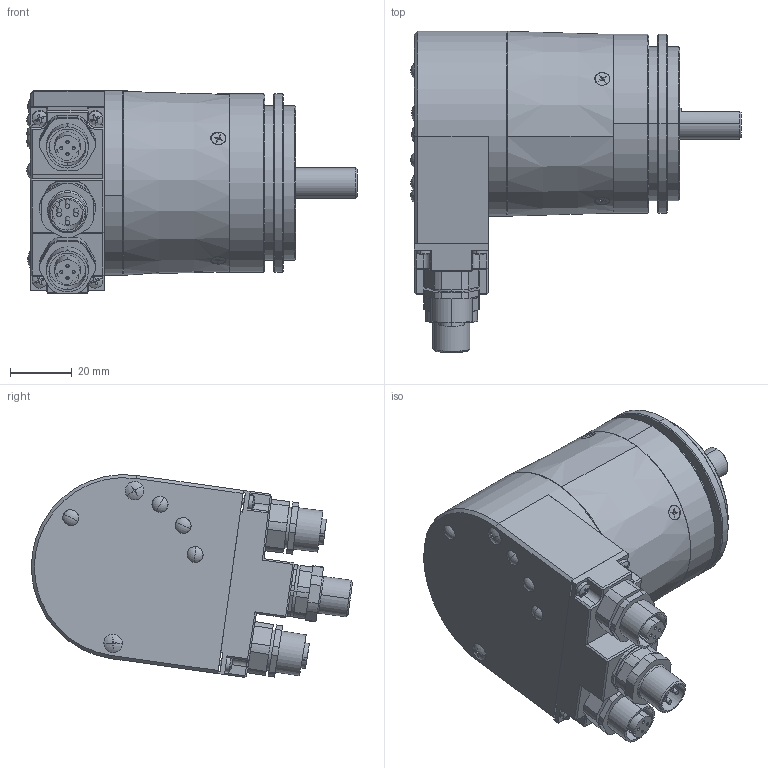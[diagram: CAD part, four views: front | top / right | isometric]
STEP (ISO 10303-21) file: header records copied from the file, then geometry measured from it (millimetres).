
FILE_DESCRIPTION (( 'STEP AP214' ), '1' );
FILE_NAME ('5868.22B2.XXXX.STEP', '2009-01-09T07:03:20', ( 'admin' ), ( 'Fritz Kübler GmbH' ), 'SwSTEP 2.0', 'SolidWorks 2008', '' );
FILE_SCHEMA (( 'AUTOMOTIVE_DESIGN' ));
Length unit declared in the file: millimetre
Products named in the file (1): 5868.22B2.XXXX
Bounding box: 107.2 x 104.23 x 65.79 mm (x, y, z)
Volume: 127182.1 mm3; surface area: 80851 mm2
Topology: 25 solids, 27 shells, 2421 faces, 6506 edges, 4197 vertices
Faces by surface type: cylinder 1011, plane 948, cone 308, torus 97, sphere 40, bspline 17
Entity records: 107157 total; most frequent: CARTESIAN_POINT 19104, DIRECTION 13218, ORIENTED_EDGE 12848, EDGE_CURVE 6424, AXIS2_PLACEMENT_3D 5227, VERTEX_POINT 4167, CIRCLE 2822, LINE 2764
